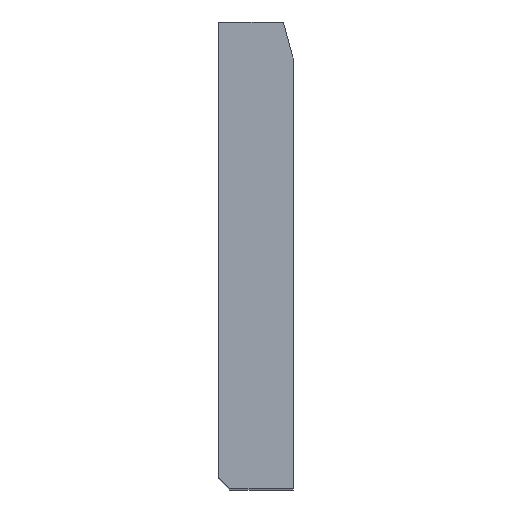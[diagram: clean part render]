
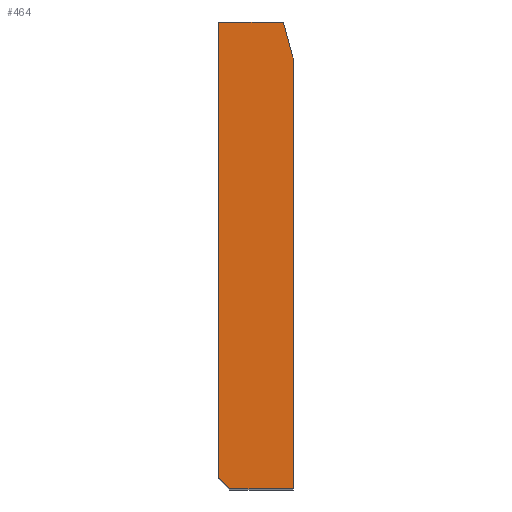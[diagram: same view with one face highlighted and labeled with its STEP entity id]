
A CAD part, top view. The second image highlights one B-rep face of the part: STEP entity #464.
In plain terms, the highlighted planar face has unit normal (0, 0, 1).
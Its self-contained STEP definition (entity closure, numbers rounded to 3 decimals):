
#70=CARTESIAN_POINT('Vertex',(0.,3.,80.)) ;
#73=CARTESIAN_POINT('Line Origine',(0.,64.,80.)) ;
#77=CARTESIAN_POINT('Vertex',(0.,125.,80.)) ;
#402=CARTESIAN_POINT('Vertex',(3.,0.,80.)) ;
#405=CARTESIAN_POINT('Line Origine',(1.5,1.5,80.)) ;
#417=CARTESIAN_POINT('Axis2P3D Location',(15.,114.342,80.)) ;
#422=CARTESIAN_POINT('Line Origine',(11.5,0.,80.)) ;
#426=CARTESIAN_POINT('Vertex',(20.,0.,80.)) ;
#429=CARTESIAN_POINT('Line Origine',(20.,57.171,80.)) ;
#433=CARTESIAN_POINT('Vertex',(20.,114.342,80.)) ;
#436=CARTESIAN_POINT('Axis2P3D Location',(15.,114.342,80.)) ;
#440=CARTESIAN_POINT('Vertex',(19.83,115.636,80.)) ;
#443=CARTESIAN_POINT('Line Origine',(18.575,120.318,80.)) ;
#447=CARTESIAN_POINT('Vertex',(17.321,125.,80.)) ;
#450=CARTESIAN_POINT('Line Origine',(8.66,125.,80.)) ;
#74=DIRECTION('Vector Direction',(0.,-1.,0.)) ;
#406=DIRECTION('Vector Direction',(0.707,-0.707,0.)) ;
#418=DIRECTION('Axis2P3D Direction',(0.,0.,1.)) ;
#419=DIRECTION('Axis2P3D XDirection',(1.,0.,-0.)) ;
#423=DIRECTION('Vector Direction',(1.,0.,0.)) ;
#430=DIRECTION('Vector Direction',(0.,1.,0.)) ;
#437=DIRECTION('Axis2P3D Direction',(0.,0.,1.)) ;
#444=DIRECTION('Vector Direction',(-0.259,0.966,0.)) ;
#451=DIRECTION('Vector Direction',(-1.,0.,0.)) ;
#420=AXIS2_PLACEMENT_3D('Plane Axis2P3D',#417,#418,#419) ;
#438=AXIS2_PLACEMENT_3D('Circle Axis2P3D',#436,#437,$) ;
#456=ORIENTED_EDGE('',*,*,#79,.T.) ;
#457=ORIENTED_EDGE('',*,*,#409,.T.) ;
#458=ORIENTED_EDGE('',*,*,#428,.T.) ;
#459=ORIENTED_EDGE('',*,*,#435,.T.) ;
#460=ORIENTED_EDGE('',*,*,#442,.T.) ;
#461=ORIENTED_EDGE('',*,*,#449,.T.) ;
#462=ORIENTED_EDGE('',*,*,#454,.T.) ;
#75=VECTOR('Line Direction',#74,1.) ;
#407=VECTOR('Line Direction',#406,1.) ;
#424=VECTOR('Line Direction',#423,1.) ;
#431=VECTOR('Line Direction',#430,1.) ;
#445=VECTOR('Line Direction',#444,1.) ;
#452=VECTOR('Line Direction',#451,1.) ;
#464=ADVANCED_FACE('A915-160X125',(#463),#421,.T.) ;
#439=CIRCLE('generated circle',#438,5.) ;
#79=EDGE_CURVE('',#78,#71,#76,.T.) ;
#409=EDGE_CURVE('',#71,#403,#408,.T.) ;
#428=EDGE_CURVE('',#403,#427,#425,.T.) ;
#435=EDGE_CURVE('',#427,#434,#432,.T.) ;
#442=EDGE_CURVE('',#434,#441,#439,.T.) ;
#449=EDGE_CURVE('',#441,#448,#446,.T.) ;
#454=EDGE_CURVE('',#448,#78,#453,.T.) ;
#455=EDGE_LOOP('',(#456,#457,#458,#459,#460,#461,#462)) ;
#463=FACE_OUTER_BOUND('',#455,.T.) ;
#76=LINE('Line',#73,#75) ;
#408=LINE('Line',#405,#407) ;
#425=LINE('Line',#422,#424) ;
#432=LINE('Line',#429,#431) ;
#446=LINE('Line',#443,#445) ;
#453=LINE('Line',#450,#452) ;
#421=PLANE('Plane',#420) ;
#71=VERTEX_POINT('',#70) ;
#78=VERTEX_POINT('',#77) ;
#403=VERTEX_POINT('',#402) ;
#427=VERTEX_POINT('',#426) ;
#434=VERTEX_POINT('',#433) ;
#441=VERTEX_POINT('',#440) ;
#448=VERTEX_POINT('',#447) ;
